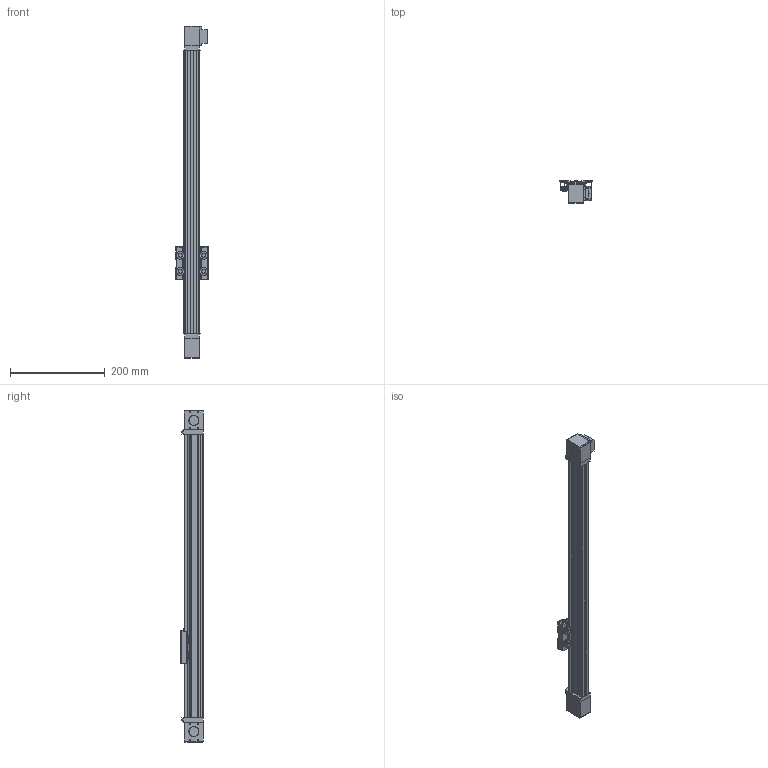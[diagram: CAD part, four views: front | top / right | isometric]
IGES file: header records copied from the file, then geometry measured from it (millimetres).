
Start section: SolidWorks IGES file using analytic representation for surfaces
Global section: file name: C:\Users\tsuch\OneDrive\デスクトップ\(20210628現在)HP用CAD関連\BLS4080A\ﾀﾞｳﾝﾛｰﾄﾞ用\iges形式\BLS2040A.IGS,15HSolidWorks; native system: 2019; preprocessor: SolidWorks 2019; author: tsuch; date: 210712.090606; units: millimetre
Bounding box: 68 x 48 x 702 mm (x, y, z)
Surface area: 299150.3 mm2 (no closed solid volume)
Topology: 0 solids, 0 shells, 681 faces, 8618 edges, 8584 vertices
Faces by surface type: bspline 407, revolution 274
